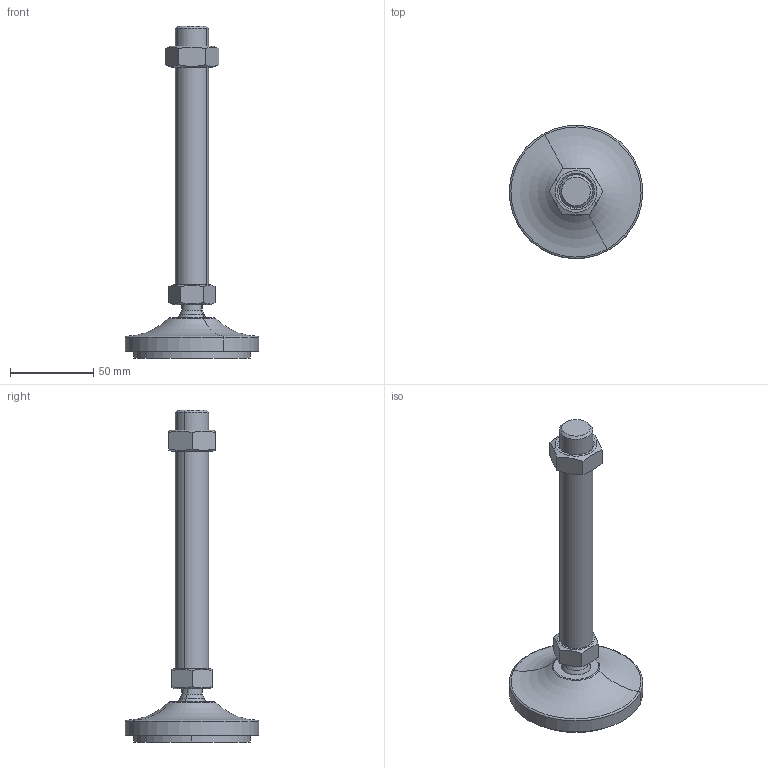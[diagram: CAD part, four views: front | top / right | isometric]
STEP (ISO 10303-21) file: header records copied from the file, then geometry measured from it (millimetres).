
FILE_DESCRIPTION(('CATIA V5 STEP Exchange'),'2;1');
FILE_NAME('C:\Users\ALI OZGUN\Desktop\alhan\saplama2\560802621AV.stp','2017-09-21T10:30:45+00:00',('none'),('none'),'CATIA Version 5 Release 21 GA (IN-10)','CATIA V5 STEP AP203','none');
FILE_SCHEMA(('CONFIG_CONTROL_DESIGN'));
Length unit declared in the file: millimetre
Products named in the file (1): 560802621AV
Bounding box: 79.98 x 79.98 x 199 mm (x, y, z)
Volume: 138206.7 mm3; surface area: 38772.7 mm2
Topology: 4 solids, 4 shells, 64 faces, 142 edges, 87 vertices
Faces by surface type: plane 22, cylinder 16, cone 16, torus 6, revolution 2, sphere 2
Entity records: 1952 total; most frequent: CARTESIAN_POINT 644, ORIENTED_EDGE 280, DIRECTION 198, EDGE_CURVE 140, AXIS2_PLACEMENT_3D 107, VERTEX_POINT 87, EDGE_LOOP 71, ADVANCED_FACE 64
